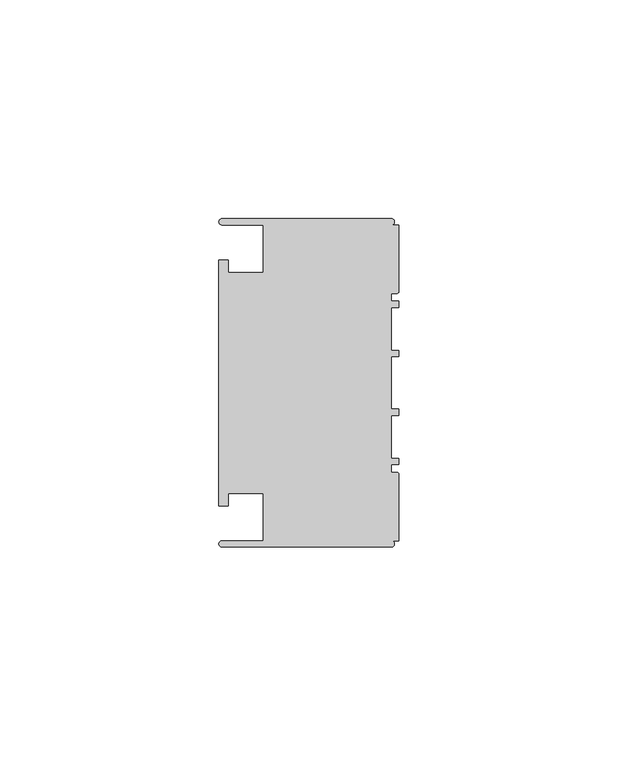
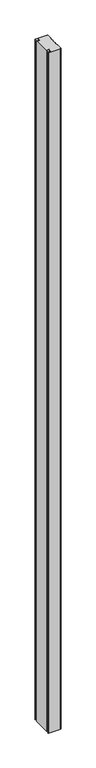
"""IFC4 building model written with IfcOpenShell, lengths in millimetres: member geometry, Прямоугольный импост : 3-AMG-2-Профиль 40Х75 Верх П."""

from ifc_helpers import new_model, si_unit, point, frame, frame_2d, origin, place, context, project, spatial, polyline, circle_curve, trimmed, segment, composite_curve, outline, extrude, source, transform, mapped, element, save


def member_a3fe87e3(model_context):
    return source(origin(), model_context, "Body", "SweptSolid", [
        extrude(outline(composite_curve([segment(polyline([(-1.7, -37.5), (-40.4, -37.5)]), True, "CONTINUOUS"), segment(trimmed(circle_curve(frame_2d((-40.4, -36.8)), 0.7), [point((-40.4, -37.5))], [point((-40.4, -36.1))], False, "CARTESIAN"), True, "CONTINUOUS"), segment(polyline([(-40.4, -36.1), (-31.0, -36.1), (-31.0, -25.25), (-39.0, -25.25), (-39.0, -28.1), (-41.1, -28.1), (-41.1, 28.1), (-39.0, 28.1), (-39.0, 25.25), (-31.0, 25.25), (-31.0, 36.1), (-40.4, 36.1)]), True, "CONTINUOUS"), segment(trimmed(circle_curve(frame_2d((-40.4, 36.8)), 0.7), [point((-40.4, 36.1))], [point((-40.4, 37.5))], False, "CARTESIAN"), True, "CONTINUOUS"), segment(polyline([(-40.4, 37.5), (-1.7, 37.5)]), True, "CONTINUOUS"), segment(trimmed(circle_curve(frame_2d((-1.7, 36.8)), 0.7), [point((-1.7, 37.5))], [point((-1.7, 36.1))], False, "CARTESIAN"), True, "CONTINUOUS"), segment(polyline([(-1.7, 36.1), (0.0, 36.1), (0.0, 20.95)]), True, "CONTINUOUS"), segment(trimmed(circle_curve(frame_2d((-0.5, 20.95)), 0.5), [point((0.0, 20.95))], [point((-0.5, 20.45))], False, "CARTESIAN"), True, "CONTINUOUS"), segment(polyline([(-0.5, 20.45), (-1.8, 20.45), (-1.8, 18.65), (0.0, 18.65), (0.0, 17.25), (-1.8, 17.25), (-1.8, 7.4), (0.0, 7.4), (0.0, 6.0), (-1.8, 6.0), (-1.8, -6.0), (0.0, -6.0), (0.0, -7.4), (-1.8, -7.4), (-1.8, -17.25), (0.0, -17.25), (0.0, -18.65), (-1.8, -18.65), (-1.8, -20.45), (-0.5, -20.45)]), True, "CONTINUOUS"), segment(trimmed(circle_curve(frame_2d((-0.5, -20.95)), 0.5), [point((-0.5, -20.45))], [point((0.0, -20.95))], False, "CARTESIAN"), True, "CONTINUOUS"), segment(polyline([(0.0, -20.95), (0.0, -36.1), (-1.7, -36.1)]), True, "CONTINUOUS"), segment(trimmed(circle_curve(frame_2d((-1.7, -36.8)), 0.7), [point((-1.7, -36.1))], [point((-1.7, -37.5))], False, "CARTESIAN"), True, "CONTINUOUS")], self_intersect=False)), frame((0.0, 0.0, -2298.9), z_axis=(0.0, 0.0, 1.0), x_axis=(1.0, 0.0, 0.0)), (0.0, 0.0, 1.0), 2298.9),
    ])


if __name__ == "__main__":
    model = new_model("IFC4")
    model_context = context("Model", 3, world=origin())
    ifc_project = project(units=[si_unit("LENGTHUNIT", "METRE", prefix="MILLI")], contexts=[model_context])
    site = spatial("IfcSite", under=ifc_project)
    building = spatial("IfcBuilding", under=site)
    placement = place(None, origin())
    member_shape = member_a3fe87e3(model_context)
    element("IfcMember", 1, ObjectType="Прямоугольный импост : 3-AMG-2-Профиль 40Х75 Верх П", at=placement, inside=building, context=model_context, shape_type="MappedRepresentation", body=[
        mapped(member_shape, transform((0.0, 0.0, 0.0), x_axis=(1.0, 0.0, 0.0), y_axis=(0.0, 1.0, 0.0), z_axis=(0.0, 0.0, 1.0))),
    ])
    save(model, "model.ifc")
